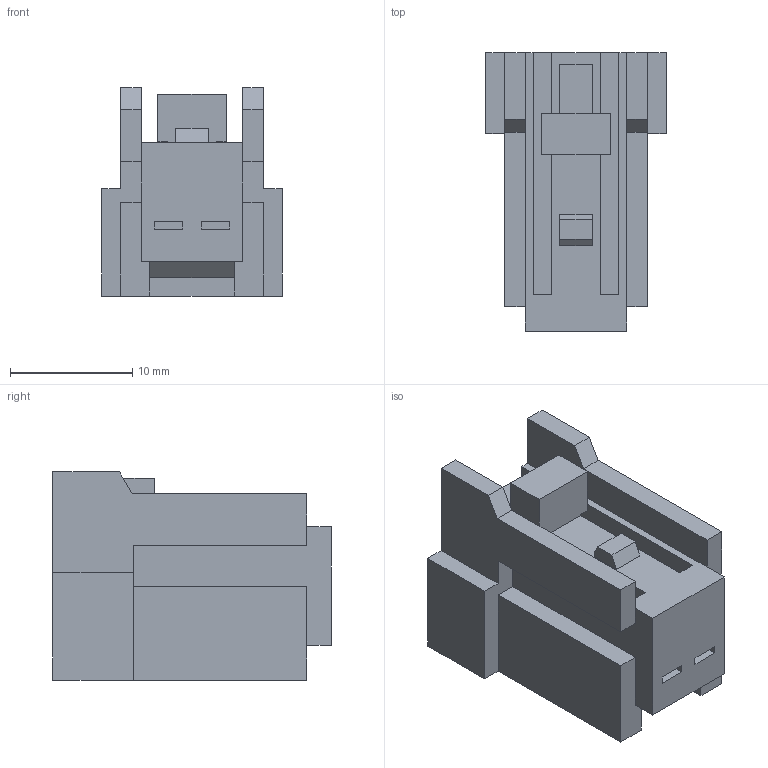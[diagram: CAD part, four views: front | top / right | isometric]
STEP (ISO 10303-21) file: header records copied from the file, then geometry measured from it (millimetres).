
FILE_DESCRIPTION(('CATIA V5 STEP','CAx-IF Rec.Pracs.--- Model Styling and Organization---1.4--- 2014-01-23'),'2;1');
FILE_NAME('\\fss02.ad.sws.co.jp\fs100016\第3設計部\共有\コネクタ第1Gr\【91】一時保管\★カタログ用参考資料\簡易３D\stp_送付用\6098-8099.stp','2024-10-07T03:30:03+00:00',('none'),('none'),'CATIA Version 5-6 Release 2018 SP4','CATIA V5 STEP AP214','none');
FILE_SCHEMA(('AUTOMOTIVE_DESIGN { 1 0 10303 214 1 1 1 1 }'));
Length unit declared in the file: millimetre
Products named in the file (1): 6098-8099
Bounding box: 14.8 x 22.8 x 17.05 mm (x, y, z)
Volume: 3016.1 mm3; surface area: 2378.9 mm2
Topology: 1 solids, 1 shells, 87 faces, 241 edges, 160 vertices
Faces by surface type: plane 87
Entity records: 2614 total; most frequent: ORIENTED_EDGE 482, CARTESIAN_POINT 463, DIRECTION 363, VECTOR 241, EDGE_CURVE 241, LINE 241, VERTEX_POINT 160, EDGE_LOOP 93
